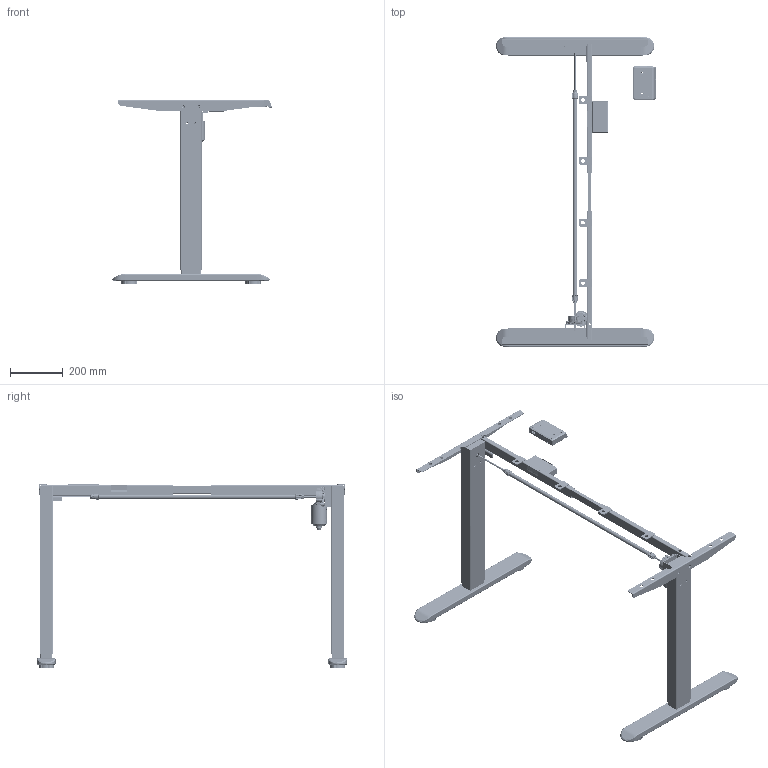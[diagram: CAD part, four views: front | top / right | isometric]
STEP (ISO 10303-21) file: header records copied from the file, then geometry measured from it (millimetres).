
FILE_DESCRIPTION(('CATIA V5 STEP Exchange'),'2;1');
FILE_NAME('F:\胡亚菊\工作\2022年设计申请单\莫献秋\T035\3D\AK02DHL-TY-AJ-M02-T035.stp','2022-08-03T07:25:35+00:00',('none'),('none'),'CATIA Version 5 Release 21 GA (IN-10)','CATIA V5 STEP AP203','none');
FILE_SCHEMA(('CONFIG_CONTROL_DESIGN'));
Products named in the file (14): AK02DHL-TY-AJ-M02-T222; Product01; 1.13.402.X AK-DHL-SG04M02-635_58-V2_上管(单横梁单电机主腿-电机竖放)-V2; 1.15.400.X AK-TYDB2-XG01-560_4575_下管(倒装薄管管孔隐藏式); 1.01.400.X AK-DHL01M02-500_右侧单横梁; YS-SingleMoto; 内置39齿齿轮箱组件 A0(哑喷砂齿轮箱-A003同款）; 1.11.503.X AK-GZDJ01A-500_26X52; AK-DJ; Product02; 1.13.401.X AK-DHL-SG02M02-635_58-V4; AK-ZHHL02DHL-500; Product5; ASM
Assembly tree (78 placements, depth 5):
  AK02DHL-TY-AJ-M02-T222
    Product01
      1.13.402.X AK-DHL-SG04M02-635_58-V2_上管(单横梁单电机主腿-电机竖放)-V2
        #74
        #1617
        #2484
      1.15.400.X AK-TYDB2-XG01-560_4575_下管(倒装薄管管孔隐藏式)
        #3522
        #4285
      1.01.400.X AK-DHL01M02-500_右侧单横梁
        #6493
        #7510  x2
      #7910
      #8796
      YS-SingleMoto
        #10295  x2
        #10764
        #18189  x2
        #19772  x2
        #20262
        #22059
        #38446
        内置39齿齿轮箱组件 A0(哑喷砂齿轮箱-A003同款）
          #41331  x3
          #53603  x3
          #64624
          #72719
          #73238  x2
          #73729
          #87780
          #93799
        #95323
        #123003  x2
        #143175
        #143950
        #151296
      #151850
      1.11.503.X AK-GZDJ01A-500_26X52
        AK-DJ
          #152331
          #153793  x2
          #161622  x2
    Product02
      1.13.401.X AK-DHL-SG02M02-635_58-V4
        #74
        #165842
      1.15.400.X AK-TYDB2-XG01-560_4575_下管(倒装薄管管孔隐藏式)
        #3522
        #4285
      #7910
      #8796
      AK-ZHHL02DHL-500
        #166775
        #167792  x2
      1.11.503.X AK-GZDJ01A-500_26X52
        AK-DJ
          #152331
          #153793  x2
          #161622  x2
    #168220
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Bounding box: 606.28 x 1174 x 695 mm (x, y, z)
Volume: 2490643 mm3; surface area: 2560128.1 mm2
Topology: 78 solids, 81 shells, 11142 faces, 29241 edges, 18463 vertices
Faces by surface type: bspline 4435, plane 3148, cylinder 2523, cone 540, torus 289, extrusion 103, sphere 76, revolution 28
Entity records: 300076 total; most frequent: CARTESIAN_POINT 139193, ORIENTED_EDGE 41091, DIRECTION 21486, EDGE_CURVE 20563, VERTEX_POINT 13319, VECTOR 8352, LINE 8249, EDGE_LOOP 8184
